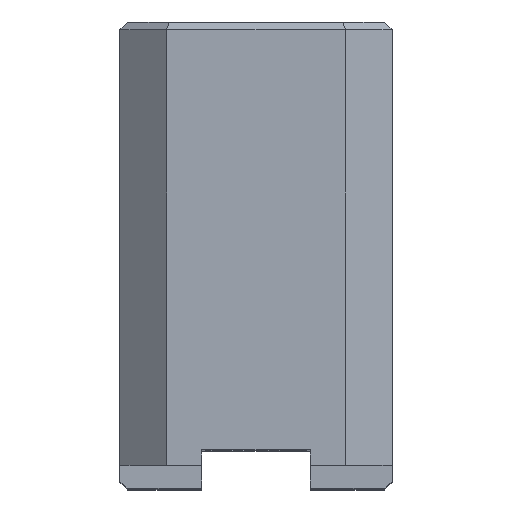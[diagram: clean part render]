
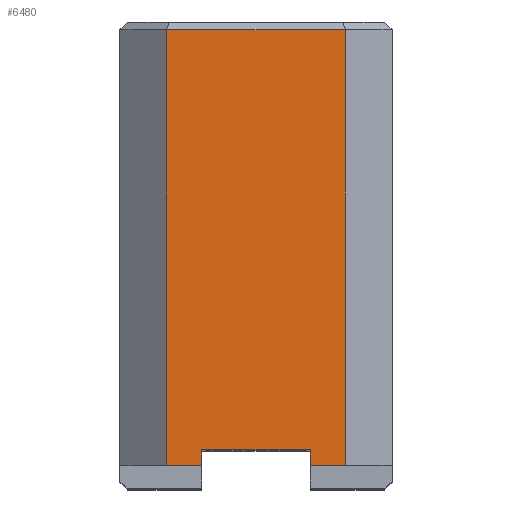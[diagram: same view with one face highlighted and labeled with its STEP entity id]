
A CAD part, top view. The second image highlights one B-rep face of the part: STEP entity #6480.
In plain terms, the highlighted planar face has unit normal (0, 0, 1).
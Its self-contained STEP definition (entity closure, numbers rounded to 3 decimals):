
#48=FACE_OUTER_BOUND('',#430,.T.);
#430=EDGE_LOOP('',(#4416,#4417,#4418,#4419,#4420,#4421,#4422,#4423));
#817=LINE('',#9015,#1753);
#824=LINE('',#9031,#1760);
#873=LINE('',#9129,#1809);
#881=LINE('',#9145,#1817);
#1014=LINE('',#9411,#1950);
#1015=LINE('',#9412,#1951);
#1016=LINE('',#9414,#1952);
#1017=LINE('',#9415,#1953);
#1753=VECTOR('',#7284,10.);
#1760=VECTOR('',#7295,10.);
#1809=VECTOR('',#7348,10.);
#1817=VECTOR('',#7362,10.);
#1950=VECTOR('',#7497,10.);
#1951=VECTOR('',#7498,10.);
#1952=VECTOR('',#7499,10.);
#1953=VECTOR('',#7500,10.);
#2686=VERTEX_POINT('',#9009);
#2688=VERTEX_POINT('',#9013);
#2694=VERTEX_POINT('',#9028);
#2695=VERTEX_POINT('',#9030);
#2742=VERTEX_POINT('',#9128);
#2747=VERTEX_POINT('',#9144);
#2879=VERTEX_POINT('',#9410);
#2880=VERTEX_POINT('',#9413);
#3259=EDGE_CURVE('',#2686,#2688,#817,.T.);
#3266=EDGE_CURVE('',#2695,#2694,#824,.T.);
#3315=EDGE_CURVE('',#2695,#2742,#873,.T.);
#3323=EDGE_CURVE('',#2747,#2686,#881,.T.);
#3456=EDGE_CURVE('',#2694,#2879,#1014,.T.);
#3457=EDGE_CURVE('',#2879,#2747,#1015,.T.);
#3458=EDGE_CURVE('',#2688,#2880,#1016,.T.);
#3459=EDGE_CURVE('',#2742,#2880,#1017,.T.);
#4416=ORIENTED_EDGE('',*,*,#3266,.T.);
#4417=ORIENTED_EDGE('',*,*,#3456,.T.);
#4418=ORIENTED_EDGE('',*,*,#3457,.T.);
#4419=ORIENTED_EDGE('',*,*,#3323,.T.);
#4420=ORIENTED_EDGE('',*,*,#3259,.T.);
#4421=ORIENTED_EDGE('',*,*,#3458,.T.);
#4422=ORIENTED_EDGE('',*,*,#3459,.F.);
#4423=ORIENTED_EDGE('',*,*,#3315,.F.);
#6104=PLANE('',#6885);
#6480=ADVANCED_FACE('',(#48),#6104,.T.);
#6885=AXIS2_PLACEMENT_3D('',#9409,#7495,#7496);
#7284=DIRECTION('',(1.,0.,0.));
#7295=DIRECTION('',(1.,0.,0.));
#7348=DIRECTION('',(0.,1.,0.));
#7362=DIRECTION('',(0.,-1.,0.));
#7495=DIRECTION('center_axis',(0.,0.,1.));
#7496=DIRECTION('ref_axis',(1.,0.,0.));
#7497=DIRECTION('',(0.,1.,0.));
#7498=DIRECTION('',(1.,0.,0.));
#7499=DIRECTION('',(0.,1.,0.));
#7500=DIRECTION('',(1.,0.,0.));
#9009=CARTESIAN_POINT('',(7.,3.,47.5));
#9013=CARTESIAN_POINT('',(11.5,3.,47.5));
#9015=CARTESIAN_POINT('',(1.247,3.,47.5));
#9028=CARTESIAN_POINT('',(-7.,3.,47.5));
#9030=CARTESIAN_POINT('',(-11.5,3.,47.5));
#9031=CARTESIAN_POINT('',(1.247,3.,47.5));
#9128=CARTESIAN_POINT('',(-11.5,59.,47.5));
#9129=CARTESIAN_POINT('',(-11.5,0.,47.5));
#9144=CARTESIAN_POINT('',(7.,5.,47.5));
#9145=CARTESIAN_POINT('',(7.,2.5,47.5));
#9409=CARTESIAN_POINT('Origin',(-11.5,0.,47.5));
#9410=CARTESIAN_POINT('',(-7.,5.,47.5));
#9411=CARTESIAN_POINT('',(-7.,0.,47.5));
#9412=CARTESIAN_POINT('',(-9.25,5.,47.5));
#9413=CARTESIAN_POINT('',(11.5,59.,47.5));
#9414=CARTESIAN_POINT('',(11.5,0.,47.5));
#9415=CARTESIAN_POINT('',(-5.75,59.,47.5));
